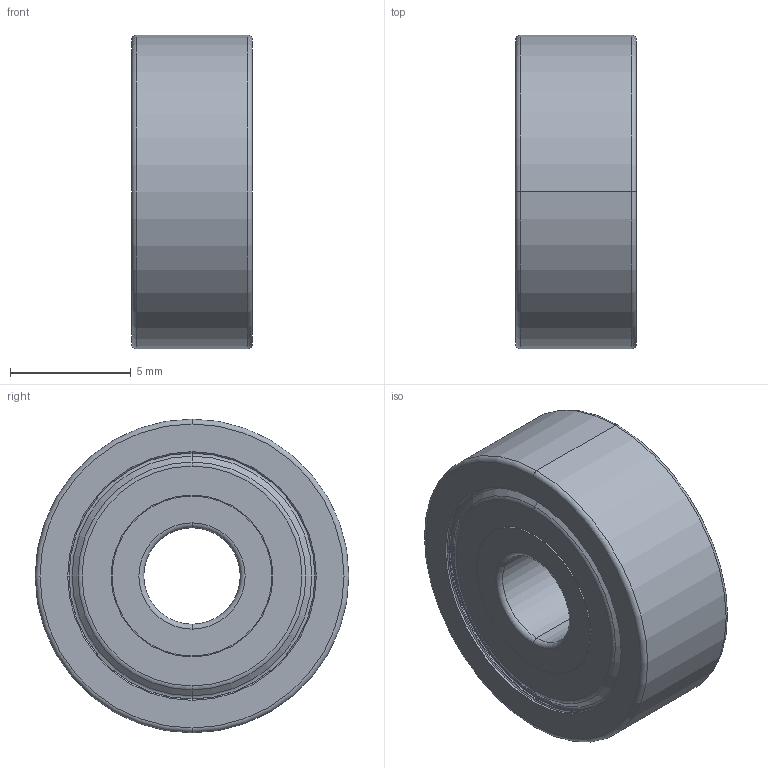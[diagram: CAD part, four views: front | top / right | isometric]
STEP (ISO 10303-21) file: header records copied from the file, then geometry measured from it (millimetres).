
FILE_DESCRIPTION((''),'2;1');
FILE_NAME('624ZZ-EA012','2025-12-19T16:31:54',('qinghui.yi'),(''),'CREO PARAMETRIC BY PTC INC, 2019164','CREO PARAMETRIC BY PTC INC, 2019164','');
FILE_SCHEMA(('CONFIG_CONTROL_DESIGN','SHAPE_APPEARANCE_LAYERS_GROUPS'));
Length unit declared in the file: millimetre
Products named in the file (1): 624ZZ-EA012
Bounding box: 5 x 13 x 13 mm (x, y, z)
Volume: 367.8 mm3; surface area: 902.5 mm2
Topology: 2 solids, 2 shells, 88 faces, 178 edges, 104 vertices
Faces by surface type: torus 34, cylinder 24, cone 16, plane 14
Entity records: 2575 total; most frequent: DIRECTION 492, CARTESIAN_POINT 370, ORIENTED_EDGE 356, AXIS2_PLACEMENT_3D 226, COLOUR_RGB 196, EDGE_CURVE 178, CIRCLE 138, VERTEX_POINT 104
